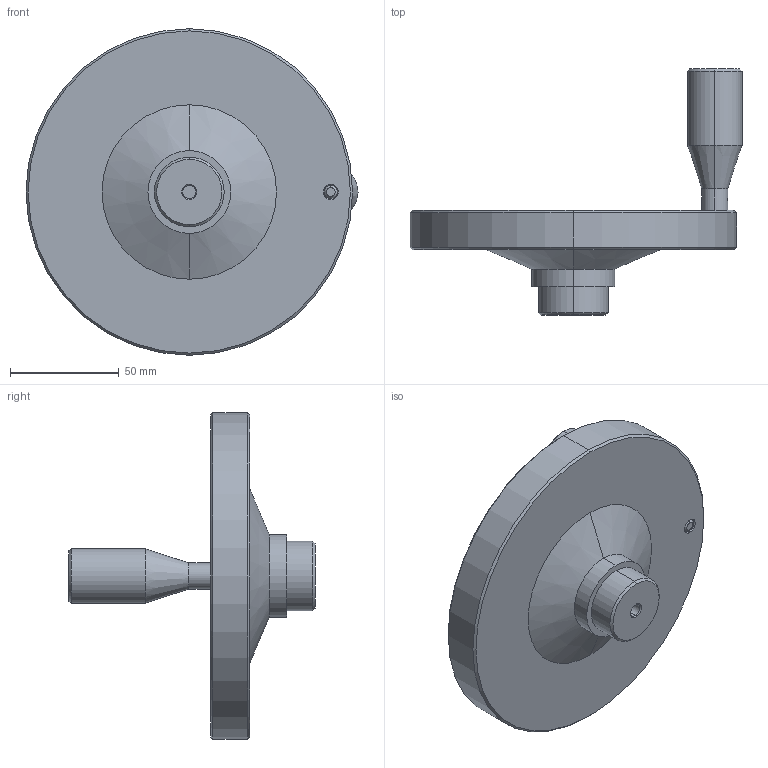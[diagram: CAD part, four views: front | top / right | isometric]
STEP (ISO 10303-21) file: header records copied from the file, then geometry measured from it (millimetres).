
FILE_DESCRIPTION (( 'STEP AP203' ), '1' );
FILE_NAME ('77640.W0150.step', '2019-08-13T15:13:29', ( '' ), ( '' ), 'SwSTEP 2.0', 'SolidWorks 2017', '' );
FILE_SCHEMA (( 'CONFIG_CONTROL_DESIGN' ));
Length unit declared in the file: millimetre
Products named in the file (3): Part2_77640.W0150; 77640.W0150; Part1_77640.W0150
Assembly tree (2 placements, depth 2):
  77640.W0150
    Part1_77640.W0150
    Part2_77640.W0150
Bounding box: 152.5 x 113 x 150 mm (x, y, z)
Volume: 306697.6 mm3; surface area: 53883.2 mm2
Topology: 2 solids, 2 shells, 59 faces, 116 edges, 68 vertices
Faces by surface type: cone 24, cylinder 24, plane 11
Entity records: 1845 total; most frequent: DIRECTION 308, CARTESIAN_POINT 276, ORIENTED_EDGE 232, AXIS2_PLACEMENT_3D 130, EDGE_CURVE 116, VERTEX_POINT 68, EDGE_LOOP 68, CIRCLE 66
